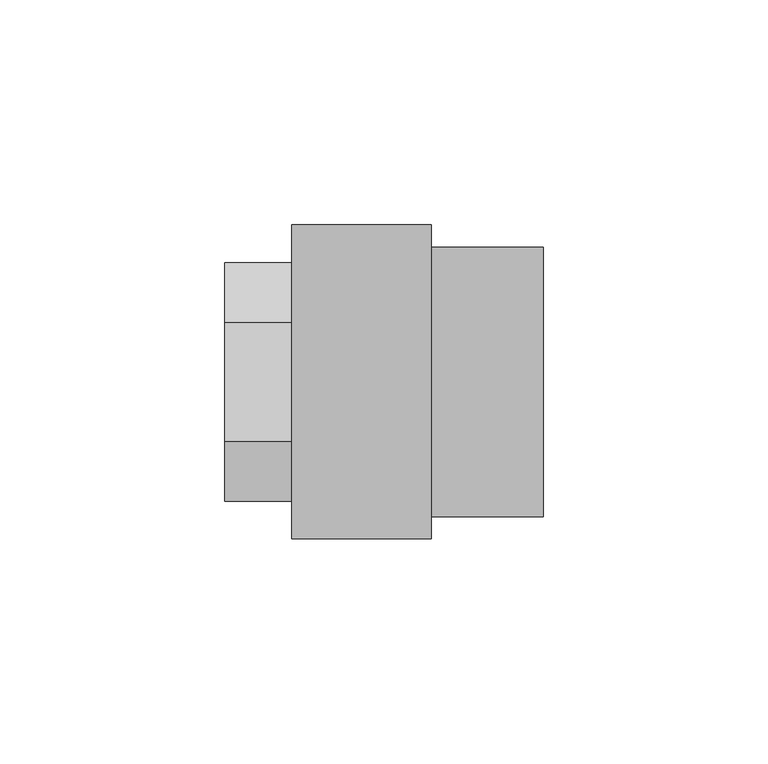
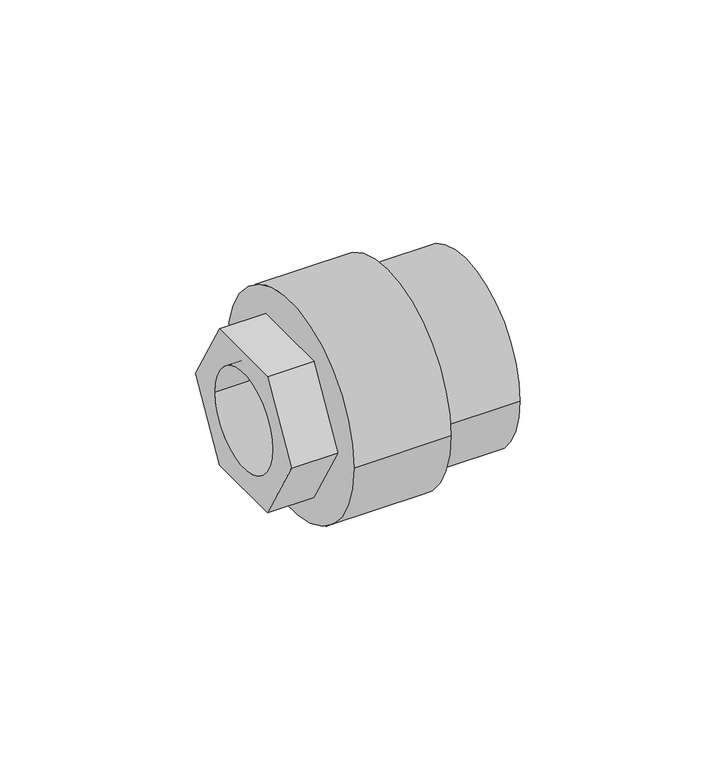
"""IFC4 building model written with IfcOpenShell, lengths in millimetres: pipe fitting geometry, NIRON RED termofusion roscado enlace rosca hembra hexagonal : Estándar."""

from ifc_helpers import new_model, si_unit, frame, origin, place, context, project, spatial, polyline, circle_curve, source, transform, mapped, element, save
from ifc_brep_helpers import plane_surface, cylinder_surface, revolved_surface, advanced_brep


def pipe_fitting_46ec8df5(model_context):
    return source(origin(), model_context, "Body", "AdvancedBrep", [
        advanced_brep(
        [(46.0, 35.0, 0.0), (46.0, -35.0, 0.0), (15.0, 35.0, 0.0), (15.0, -35.0, 0.0), (15.0, -16.0, 0.0), (15.0, 16.0, 0.0), (21.4, 16.0, 0.0), (21.4, -16.0, 0.0)],
        [
            (0, 1, circle_curve(frame((46.0, 0.0, 0.0), z_axis=(1.0, 0.0, 0.0), x_axis=(0.0, -1.0, 0.0)), 35.0)),
            (1, 0, circle_curve(frame((46.0, 0.0, 0.0), z_axis=(1.0, 0.0, 0.0), x_axis=(0.0, -1.0, 0.0)), 35.0)),
            (2, 3, circle_curve(frame((15.0, 0.0, 0.0), z_axis=(-1.0, 0.0, 0.0), x_axis=(0.0, -1.0, 0.0)), 35.0)),
            (3, 2, circle_curve(frame((15.0, 0.0, 0.0), z_axis=(-1.0, 0.0, 0.0), x_axis=(0.0, -1.0, 0.0)), 35.0)),
            (4, 5, circle_curve(frame((15.0, 0.0, 0.0), z_axis=(1.0, 0.0, 0.0), x_axis=(0.0, -1.0, 0.0)), 16.0)),
            (5, 4, circle_curve(frame((15.0, 0.0, 0.0), z_axis=(1.0, 0.0, 0.0), x_axis=(0.0, -1.0, 0.0)), 16.0)),
            (1, 3),
            (2, 0),
            (6, 7, circle_curve(frame((21.4, 0.0, 0.0), z_axis=(-1.0, 0.0, 0.0), x_axis=(0.0, -1.0, 0.0)), 16.0)),
            (7, 6, circle_curve(frame((21.4, 0.0, 0.0), z_axis=(-1.0, 0.0, 0.0), x_axis=(0.0, -1.0, 0.0)), 16.0)),
            (6, 5),
            (4, 7),
        ],
        [
            plane_surface(frame((46.0, -35.0, 0.0), z_axis=(1.0, 0.0, 0.0), x_axis=(0.0, 0.0, -1.0))),
            plane_surface(frame((15.0, -35.0, 0.0), z_axis=(-1.0, 0.0, 0.0), x_axis=(0.0, 0.0, 1.0))),
            cylinder_surface(frame((46.0, 0.0, 0.0), z_axis=(-1.0, 0.0, 0.0), x_axis=(0.0, -1.0, 0.0)), 35.0),
            plane_surface(frame((21.4, -16.0, 0.0), z_axis=(-1.0, 0.0, 0.0), x_axis=(0.0, 0.0, -1.0))),
            revolved_surface(polyline([(15.0, -16.0, 0.0), (21.4, -16.0, 0.0)]), (21.4, 0.0, 0.0), (-1.0, 0.0, 0.0)),
        ],
        [
            (0, [[1, 2]]),
            (1, [[3, 4], [5, 6]]),
            (2, [[-2, 7, -3, 8]]),
            (2, [[-1, -8, -4, -7]]),
            (3, [[9, 10]]),
            (4, [[-9, 11, -5, 12]]),
            (4, [[-10, -12, -6, -11]]),
        ],
    ),
        advanced_brep(
        [(15.0, 30.0, 0.0), (15.0, -30.0, 0.0), (15.0, -16.0, 0.0), (15.0, 16.0, 0.0), (71.0, 30.0, 0.0), (71.0, -30.0, 0.0), (21.4, 16.0, 0.0), (21.4, -16.0, 0.0)],
        [
            (0, 1, circle_curve(frame((15.0, 0.0, 0.0), z_axis=(-1.0, 0.0, 0.0), x_axis=(0.0, -1.0, 0.0)), 30.0)),
            (1, 0, circle_curve(frame((15.0, 0.0, 0.0), z_axis=(-1.0, 0.0, 0.0), x_axis=(0.0, -1.0, 0.0)), 30.0)),
            (2, 3, circle_curve(frame((15.0, 0.0, 0.0), z_axis=(1.0, 0.0, 0.0), x_axis=(0.0, -1.0, 0.0)), 16.0)),
            (3, 2, circle_curve(frame((15.0, 0.0, 0.0), z_axis=(1.0, 0.0, 0.0), x_axis=(0.0, -1.0, 0.0)), 16.0)),
            (4, 5, circle_curve(frame((71.0, 0.0, 0.0), z_axis=(1.0, 0.0, 0.0), x_axis=(0.0, -1.0, 0.0)), 30.0)),
            (5, 4, circle_curve(frame((71.0, 0.0, 0.0), z_axis=(1.0, 0.0, 0.0), x_axis=(0.0, -1.0, 0.0)), 30.0)),
            (0, 4),
            (5, 1),
            (6, 7, circle_curve(frame((21.4, 0.0, 0.0), z_axis=(-1.0, 0.0, 0.0), x_axis=(0.0, -1.0, 0.0)), 16.0)),
            (7, 6, circle_curve(frame((21.4, 0.0, 0.0), z_axis=(-1.0, 0.0, 0.0), x_axis=(0.0, -1.0, 0.0)), 16.0)),
            (6, 3),
            (2, 7),
        ],
        [
            plane_surface(frame((15.0, -30.0, 0.0), z_axis=(-1.0, 0.0, 0.0), x_axis=(0.0, 0.0, 1.0))),
            plane_surface(frame((71.0, -30.0, 0.0), z_axis=(1.0, 0.0, 0.0), x_axis=(0.0, 0.0, -1.0))),
            cylinder_surface(frame((71.0, 0.0, 0.0), z_axis=(-1.0, 0.0, 0.0), x_axis=(0.0, -1.0, 0.0)), 30.0),
            plane_surface(frame((21.4, -16.0, 0.0), z_axis=(-1.0, 0.0, 0.0), x_axis=(0.0, 0.0, -1.0))),
            revolved_surface(polyline([(15.0, -16.0, 0.0), (21.4, -16.0, 0.0)]), (21.4, 0.0, 0.0), (-1.0, 0.0, 0.0)),
        ],
        [
            (0, [[1, 2], [3, 4]]),
            (1, [[5, 6]]),
            (2, [[-1, 7, -6, 8]]),
            (2, [[-2, -8, -5, -7]]),
            (3, [[9, 10]]),
            (4, [[-9, 11, -3, 12]]),
            (4, [[-10, -12, -4, -11]]),
        ],
    ),
        advanced_brep(
        [(45.0, -13.2790562, -23.0), (45.0, 13.2790562, -23.0), (45.0, 26.5581124, 0.0), (45.0, 13.2790562, 23.0), (45.0, -13.2790562, 23.0), (45.0, -26.5581124, 0.0), (0.0, -13.2790562, -23.0), (0.0, -26.5581124, 0.0), (0.0, -13.2790562, 23.0), (0.0, 13.2790562, 23.0), (0.0, 26.5581124, 0.0), (0.0, 13.2790562, -23.0), (0.0, -16.0, 0.0), (0.0, 16.0, 0.0), (21.4, 16.0, 0.0), (21.4, -16.0, 0.0)],
        [
            (0, 1),
            (1, 2),
            (2, 3),
            (3, 4),
            (4, 5),
            (5, 0),
            (6, 7),
            (7, 8),
            (8, 9),
            (9, 10),
            (10, 11),
            (11, 6),
            (12, 13, circle_curve(frame((0.0, 0.0, 0.0), z_axis=(1.0, 0.0, 0.0), x_axis=(0.0, -1.0, 0.0)), 16.0)),
            (13, 12, circle_curve(frame((0.0, 0.0, 0.0), z_axis=(1.0, 0.0, 0.0), x_axis=(0.0, -1.0, 0.0)), 16.0)),
            (0, 6),
            (11, 1),
            (10, 2),
            (9, 3),
            (8, 4),
            (7, 5),
            (14, 15, circle_curve(frame((21.4, 0.0, 0.0), z_axis=(-1.0, 0.0, 0.0), x_axis=(0.0, -1.0, 0.0)), 16.0)),
            (15, 14, circle_curve(frame((21.4, 0.0, 0.0), z_axis=(-1.0, 0.0, 0.0), x_axis=(0.0, -1.0, 0.0)), 16.0)),
            (14, 13),
            (12, 15),
        ],
        [
            plane_surface(frame((45.0, 0.0, 0.0), z_axis=(1.0, 0.0, 0.0), x_axis=(0.0, 0.0, 1.0))),
            plane_surface(frame((0.0, 0.0, 0.0), z_axis=(-1.0, 0.0, 0.0), x_axis=(0.0, 0.0, 1.0))),
            plane_surface(frame((45.0, -13.2790562, -23.0), z_axis=(0.0, 0.0, -1.0), x_axis=(-1.0, 0.0, 0.0))),
            plane_surface(frame((45.0, 13.2790562, -23.0), z_axis=(0.0, 0.8660254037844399, -0.49999999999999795), x_axis=(-1.0, 0.0, 0.0))),
            plane_surface(frame((45.0, 26.5581124, 0.0), z_axis=(0.0, 0.866025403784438, 0.5000000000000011), x_axis=(-1.0, 0.0, 0.0))),
            plane_surface(frame((45.0, 13.2790562, 23.0), z_axis=(0.0, 0.0, 1.0), x_axis=(-1.0, 0.0, 0.0))),
            plane_surface(frame((45.0, -13.2790562, 23.0), z_axis=(0.0, -0.8660254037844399, 0.4999999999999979), x_axis=(-1.0, 0.0, 0.0))),
            plane_surface(frame((45.0, -26.5581124, 0.0), z_axis=(0.0, -0.866025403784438, -0.5000000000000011), x_axis=(-1.0, 0.0, 0.0))),
            plane_surface(frame((21.4, -16.0, 0.0), z_axis=(-1.0, 0.0, 0.0), x_axis=(0.0, 0.0, -1.0))),
            revolved_surface(polyline([(0.0, -16.0, 0.0), (21.4, -16.0, 0.0)]), (21.4, 0.0, 0.0), (-1.0, 0.0, 0.0)),
        ],
        [
            (0, [[1, 2, 3, 4, 5, 6]]),
            (1, [[7, 8, 9, 10, 11, 12], [13, 14]]),
            (2, [[-1, 15, -12, 16]]),
            (3, [[-2, -16, -11, 17]]),
            (4, [[-3, -17, -10, 18]]),
            (5, [[-4, -18, -9, 19]]),
            (6, [[-5, -19, -8, 20]]),
            (7, [[-6, -20, -7, -15]]),
            (8, [[21, 22]]),
            (9, [[-21, 23, -13, 24]]),
            (9, [[-22, -24, -14, -23]]),
        ],
    ),
    ])


if __name__ == "__main__":
    model = new_model("IFC4")
    model_context = context("Model", 3, world=origin())
    ifc_project = project(units=[si_unit("LENGTHUNIT", "METRE", prefix="MILLI")], contexts=[model_context])
    site = spatial("IfcSite", under=ifc_project)
    building = spatial("IfcBuilding", under=site)
    placement = place(None, origin())
    pipe_fitting_shape = pipe_fitting_46ec8df5(model_context)
    element("IfcPipeFitting", 1, ObjectType="NIRON RED termofusion roscado enlace rosca hembra hexagonal : Estándar", at=placement, inside=building, context=model_context, shape_type="MappedRepresentation", body=[
        mapped(pipe_fitting_shape, transform((0.0, 0.0, 0.0), x_axis=(1.0, 0.0, 0.0), y_axis=(0.0, 1.0, 0.0), z_axis=(0.0, 0.0, 1.0))),
    ])
    save(model, "model.ifc")
